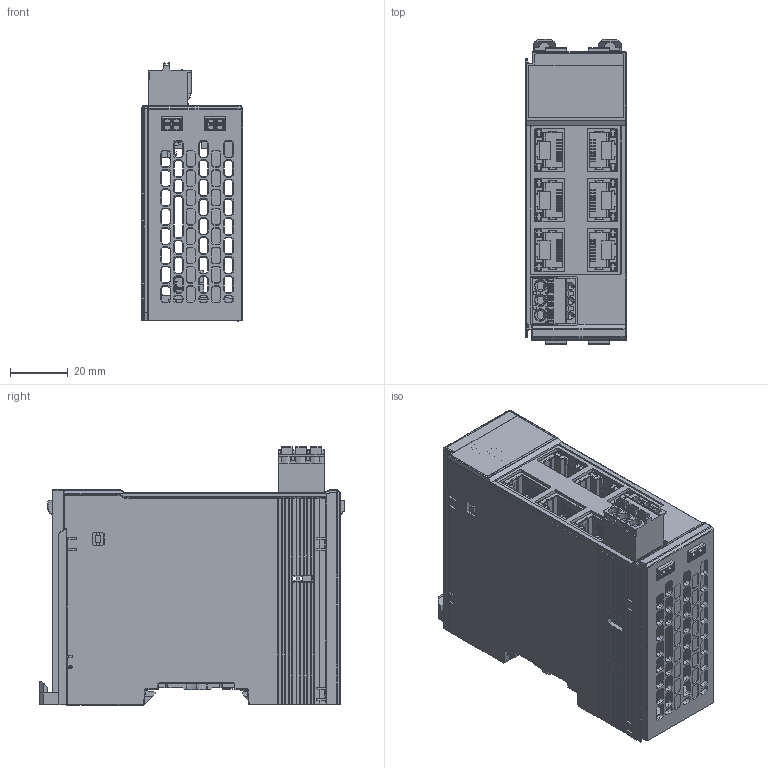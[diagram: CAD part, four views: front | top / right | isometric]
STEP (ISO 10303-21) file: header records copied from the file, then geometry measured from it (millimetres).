
FILE_DESCRIPTION( ('This file contains a STEP AP42 implementation' ,'as created by ZW3D STEP Interface translator.') ,'2;1' );
FILE_NAME( 'HCQX-ES06-0824-勤俋.stp' ,'23 824.15 022', (''), ('ZWCAD Software Co.'), 'Version 1.0', 'ZW3D to STEP translator', '' );
FILE_SCHEMA(('AUTOMOTIVE_DESIGN { 1 0 10303 214 1 1 1 1 }'));
Length unit declared in the file: millimetre
Products named in the file (2): 0; HCQX-ES06-0824-勤俋
Bounding box: 35.05 x 106 x 89.5 mm (x, y, z)
Volume: 20677.6 mm3; surface area: 81134.6 mm2
Topology: 58 solids, 66 shells, 7566 faces, 20872 edges, 13520 vertices
Faces by surface type: plane 4610, cylinder 1473, bspline 921, cone 448, sphere 114
Entity records: 256937 total; most frequent: CARTESIAN_POINT 60353, ORIENTED_EDGE 41711, DIRECTION 35622, EDGE_CURVE 20871, VECTOR 15556, LINE 15556, VERTEX_POINT 13521, AXIS2_PLACEMENT_3D 10033
